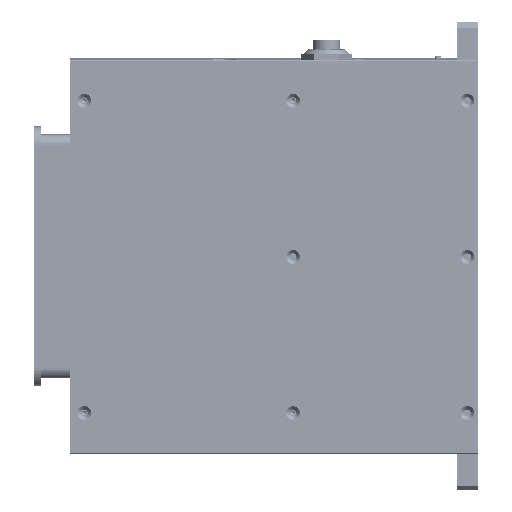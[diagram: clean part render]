
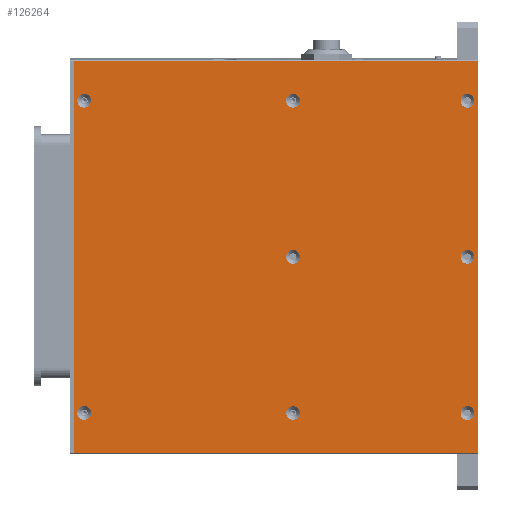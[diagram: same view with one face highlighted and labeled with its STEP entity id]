
A CAD part, front view. The second image highlights one B-rep face of the part: STEP entity #126264.
In plain terms, the highlighted planar face has unit normal (0, -1, -0.004) as drawn and (0, 0, -1) by its records, which use the part's own axes.
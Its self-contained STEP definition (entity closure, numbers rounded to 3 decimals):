
#8105=FACE_BOUND('',#21774,.T.);
#8106=FACE_BOUND('',#21775,.T.);
#8107=FACE_BOUND('',#21776,.T.);
#8108=FACE_BOUND('',#21777,.T.);
#8109=FACE_BOUND('',#21778,.T.);
#8110=FACE_BOUND('',#21779,.T.);
#8111=FACE_BOUND('',#21780,.T.);
#8112=FACE_BOUND('',#21781,.T.);
#9243=PLANE('',#134384);
#14771=FACE_OUTER_BOUND('',#21773,.T.);
#21773=EDGE_LOOP('',(#91937,#91938,#91939,#91940));
#21774=EDGE_LOOP('',(#91941,#91942));
#21775=EDGE_LOOP('',(#91943,#91944));
#21776=EDGE_LOOP('',(#91945,#91946));
#21777=EDGE_LOOP('',(#91947,#91948));
#21778=EDGE_LOOP('',(#91949,#91950));
#21779=EDGE_LOOP('',(#91951,#91952));
#21780=EDGE_LOOP('',(#91953,#91954));
#21781=EDGE_LOOP('',(#91955,#91956));
#29622=LINE('',#175647,#42718);
#29626=LINE('',#175656,#42722);
#29632=LINE('',#175667,#42728);
#29652=LINE('',#175786,#42748);
#42718=VECTOR('',#144290,10.);
#42722=VECTOR('',#144298,10.);
#42728=VECTOR('',#144306,10.);
#42748=VECTOR('',#144442,10.);
#55510=CIRCLE('',#134327,3.4);
#55511=CIRCLE('',#134328,3.4);
#55515=CIRCLE('',#134334,3.4);
#55516=CIRCLE('',#134335,3.4);
#55520=CIRCLE('',#134341,3.4);
#55521=CIRCLE('',#134342,3.4);
#55525=CIRCLE('',#134348,3.4);
#55526=CIRCLE('',#134349,3.4);
#55530=CIRCLE('',#134355,3.4);
#55531=CIRCLE('',#134356,3.4);
#55535=CIRCLE('',#134362,3.4);
#55536=CIRCLE('',#134363,3.4);
#55540=CIRCLE('',#134369,3.4);
#55541=CIRCLE('',#134370,3.4);
#55545=CIRCLE('',#134376,3.4);
#55546=CIRCLE('',#134377,3.4);
#58618=VERTEX_POINT('',#175640);
#58621=VERTEX_POINT('',#175645);
#58624=VERTEX_POINT('',#175655);
#58627=VERTEX_POINT('',#175663);
#58630=VERTEX_POINT('',#175673);
#58631=VERTEX_POINT('',#175674);
#58635=VERTEX_POINT('',#175687);
#58636=VERTEX_POINT('',#175688);
#58640=VERTEX_POINT('',#175701);
#58641=VERTEX_POINT('',#175702);
#58645=VERTEX_POINT('',#175715);
#58646=VERTEX_POINT('',#175716);
#58650=VERTEX_POINT('',#175729);
#58651=VERTEX_POINT('',#175730);
#58655=VERTEX_POINT('',#175743);
#58656=VERTEX_POINT('',#175744);
#58660=VERTEX_POINT('',#175757);
#58661=VERTEX_POINT('',#175758);
#58665=VERTEX_POINT('',#175771);
#58666=VERTEX_POINT('',#175772);
#71604=EDGE_CURVE('',#58621,#58618,#29622,.T.);
#71608=EDGE_CURVE('',#58618,#58624,#29626,.T.);
#71614=EDGE_CURVE('',#58624,#58627,#29632,.T.);
#71617=EDGE_CURVE('',#58630,#58631,#55510,.T.);
#71618=EDGE_CURVE('',#58631,#58630,#55511,.T.);
#71624=EDGE_CURVE('',#58635,#58636,#55515,.T.);
#71625=EDGE_CURVE('',#58636,#58635,#55516,.T.);
#71631=EDGE_CURVE('',#58640,#58641,#55520,.T.);
#71632=EDGE_CURVE('',#58641,#58640,#55521,.T.);
#71638=EDGE_CURVE('',#58645,#58646,#55525,.T.);
#71639=EDGE_CURVE('',#58646,#58645,#55526,.T.);
#71645=EDGE_CURVE('',#58650,#58651,#55530,.T.);
#71646=EDGE_CURVE('',#58651,#58650,#55531,.T.);
#71652=EDGE_CURVE('',#58655,#58656,#55535,.T.);
#71653=EDGE_CURVE('',#58656,#58655,#55536,.T.);
#71659=EDGE_CURVE('',#58660,#58661,#55540,.T.);
#71660=EDGE_CURVE('',#58661,#58660,#55541,.T.);
#71666=EDGE_CURVE('',#58665,#58666,#55545,.T.);
#71667=EDGE_CURVE('',#58666,#58665,#55546,.T.);
#71674=EDGE_CURVE('',#58627,#58621,#29652,.T.);
#91937=ORIENTED_EDGE('',*,*,#71604,.F.);
#91938=ORIENTED_EDGE('',*,*,#71674,.F.);
#91939=ORIENTED_EDGE('',*,*,#71614,.F.);
#91940=ORIENTED_EDGE('',*,*,#71608,.F.);
#91941=ORIENTED_EDGE('',*,*,#71617,.T.);
#91942=ORIENTED_EDGE('',*,*,#71618,.T.);
#91943=ORIENTED_EDGE('',*,*,#71624,.T.);
#91944=ORIENTED_EDGE('',*,*,#71625,.T.);
#91945=ORIENTED_EDGE('',*,*,#71631,.T.);
#91946=ORIENTED_EDGE('',*,*,#71632,.T.);
#91947=ORIENTED_EDGE('',*,*,#71638,.T.);
#91948=ORIENTED_EDGE('',*,*,#71639,.T.);
#91949=ORIENTED_EDGE('',*,*,#71645,.T.);
#91950=ORIENTED_EDGE('',*,*,#71646,.T.);
#91951=ORIENTED_EDGE('',*,*,#71652,.T.);
#91952=ORIENTED_EDGE('',*,*,#71653,.T.);
#91953=ORIENTED_EDGE('',*,*,#71659,.T.);
#91954=ORIENTED_EDGE('',*,*,#71660,.T.);
#91955=ORIENTED_EDGE('',*,*,#71666,.T.);
#91956=ORIENTED_EDGE('',*,*,#71667,.T.);
#126264=ADVANCED_FACE('',(#14771,#8105,#8106,#8107,#8108,#8109,#8110,#8111,
#8112),#9243,.F.);
#134327=AXIS2_PLACEMENT_3D('',#175675,#144313,#144314);
#134328=AXIS2_PLACEMENT_3D('',#175676,#144315,#144316);
#134334=AXIS2_PLACEMENT_3D('',#175689,#144329,#144330);
#134335=AXIS2_PLACEMENT_3D('',#175690,#144331,#144332);
#134341=AXIS2_PLACEMENT_3D('',#175703,#144345,#144346);
#134342=AXIS2_PLACEMENT_3D('',#175704,#144347,#144348);
#134348=AXIS2_PLACEMENT_3D('',#175717,#144361,#144362);
#134349=AXIS2_PLACEMENT_3D('',#175718,#144363,#144364);
#134355=AXIS2_PLACEMENT_3D('',#175731,#144377,#144378);
#134356=AXIS2_PLACEMENT_3D('',#175732,#144379,#144380);
#134362=AXIS2_PLACEMENT_3D('',#175745,#144393,#144394);
#134363=AXIS2_PLACEMENT_3D('',#175746,#144395,#144396);
#134369=AXIS2_PLACEMENT_3D('',#175759,#144409,#144410);
#134370=AXIS2_PLACEMENT_3D('',#175760,#144411,#144412);
#134376=AXIS2_PLACEMENT_3D('',#175773,#144425,#144426);
#134377=AXIS2_PLACEMENT_3D('',#175774,#144427,#144428);
#134384=AXIS2_PLACEMENT_3D('',#175788,#144445,#144446);
#144290=DIRECTION('',(0.,1.,0.));
#144298=DIRECTION('',(-1.,0.,0.));
#144306=DIRECTION('',(0.,-1.,0.));
#144313=DIRECTION('center_axis',(0.,0.,1.));
#144314=DIRECTION('ref_axis',(-1.,0.,0.));
#144315=DIRECTION('center_axis',(0.,0.,1.));
#144316=DIRECTION('ref_axis',(-1.,0.,0.));
#144329=DIRECTION('center_axis',(0.,0.,1.));
#144330=DIRECTION('ref_axis',(-1.,0.,0.));
#144331=DIRECTION('center_axis',(0.,0.,1.));
#144332=DIRECTION('ref_axis',(-1.,0.,0.));
#144345=DIRECTION('center_axis',(0.,0.,1.));
#144346=DIRECTION('ref_axis',(-1.,0.,0.));
#144347=DIRECTION('center_axis',(0.,0.,1.));
#144348=DIRECTION('ref_axis',(-1.,0.,0.));
#144361=DIRECTION('center_axis',(0.,0.,1.));
#144362=DIRECTION('ref_axis',(-1.,0.,0.));
#144363=DIRECTION('center_axis',(0.,0.,1.));
#144364=DIRECTION('ref_axis',(-1.,0.,0.));
#144377=DIRECTION('center_axis',(0.,0.,1.));
#144378=DIRECTION('ref_axis',(-1.,0.,0.));
#144379=DIRECTION('center_axis',(0.,0.,1.));
#144380=DIRECTION('ref_axis',(-1.,0.,0.));
#144393=DIRECTION('center_axis',(0.,0.,1.));
#144394=DIRECTION('ref_axis',(-1.,0.,0.));
#144395=DIRECTION('center_axis',(0.,0.,1.));
#144396=DIRECTION('ref_axis',(-1.,0.,0.));
#144409=DIRECTION('center_axis',(0.,0.,1.));
#144410=DIRECTION('ref_axis',(-1.,0.,0.));
#144411=DIRECTION('center_axis',(0.,0.,1.));
#144412=DIRECTION('ref_axis',(-1.,0.,0.));
#144425=DIRECTION('center_axis',(0.,0.,1.));
#144426=DIRECTION('ref_axis',(-1.,0.,0.));
#144427=DIRECTION('center_axis',(0.,0.,1.));
#144428=DIRECTION('ref_axis',(-1.,0.,0.));
#144442=DIRECTION('',(1.,0.,0.));
#144445=DIRECTION('center_axis',(0.,0.,1.));
#144446=DIRECTION('ref_axis',(1.,0.,0.));
#175640=CARTESIAN_POINT('',(96.5,99.5,0.));
#175645=CARTESIAN_POINT('',(96.5,-99.5,0.));
#175647=CARTESIAN_POINT('',(96.5,-49.75,0.));
#175655=CARTESIAN_POINT('',(-96.5,99.5,0.));
#175656=CARTESIAN_POINT('',(97.,99.5,0.));
#175663=CARTESIAN_POINT('',(-96.5,-99.5,0.));
#175667=CARTESIAN_POINT('',(-96.5,49.75,0.));
#175673=CARTESIAN_POINT('',(-3.4,8.5,0.));
#175674=CARTESIAN_POINT('',(3.4,8.5,0.));
#175675=CARTESIAN_POINT('Origin',(0.,8.5,0.));
#175676=CARTESIAN_POINT('Origin',(0.,8.5,0.));
#175687=CARTESIAN_POINT('',(73.6,8.5,0.));
#175688=CARTESIAN_POINT('',(80.4,8.5,0.));
#175689=CARTESIAN_POINT('Origin',(77.,8.5,0.));
#175690=CARTESIAN_POINT('Origin',(77.,8.5,0.));
#175701=CARTESIAN_POINT('',(-80.4,-94.5,0.));
#175702=CARTESIAN_POINT('',(-73.6,-94.5,0.));
#175703=CARTESIAN_POINT('Origin',(-77.,-94.5,0.));
#175704=CARTESIAN_POINT('Origin',(-77.,-94.5,0.));
#175715=CARTESIAN_POINT('',(-80.4,94.5,0.));
#175716=CARTESIAN_POINT('',(-73.6,94.5,0.));
#175717=CARTESIAN_POINT('Origin',(-77.,94.5,0.));
#175718=CARTESIAN_POINT('Origin',(-77.,94.5,0.));
#175729=CARTESIAN_POINT('',(73.6,94.5,0.));
#175730=CARTESIAN_POINT('',(80.4,94.5,0.));
#175731=CARTESIAN_POINT('Origin',(77.,94.5,0.));
#175732=CARTESIAN_POINT('Origin',(77.,94.5,0.));
#175743=CARTESIAN_POINT('',(-80.4,8.5,0.));
#175744=CARTESIAN_POINT('',(-73.6,8.5,0.));
#175745=CARTESIAN_POINT('Origin',(-77.,8.5,0.));
#175746=CARTESIAN_POINT('Origin',(-77.,8.5,0.));
#175757=CARTESIAN_POINT('',(73.6,-94.5,0.));
#175758=CARTESIAN_POINT('',(80.4,-94.5,0.));
#175759=CARTESIAN_POINT('Origin',(77.,-94.5,0.));
#175760=CARTESIAN_POINT('Origin',(77.,-94.5,0.));
#175771=CARTESIAN_POINT('',(-3.4,94.5,0.));
#175772=CARTESIAN_POINT('',(3.4,94.5,0.));
#175773=CARTESIAN_POINT('Origin',(0.,94.5,0.));
#175774=CARTESIAN_POINT('Origin',(0.,94.5,0.));
#175786=CARTESIAN_POINT('',(-97.,-99.5,0.));
#175788=CARTESIAN_POINT('Origin',(0.,0.,
0.));
